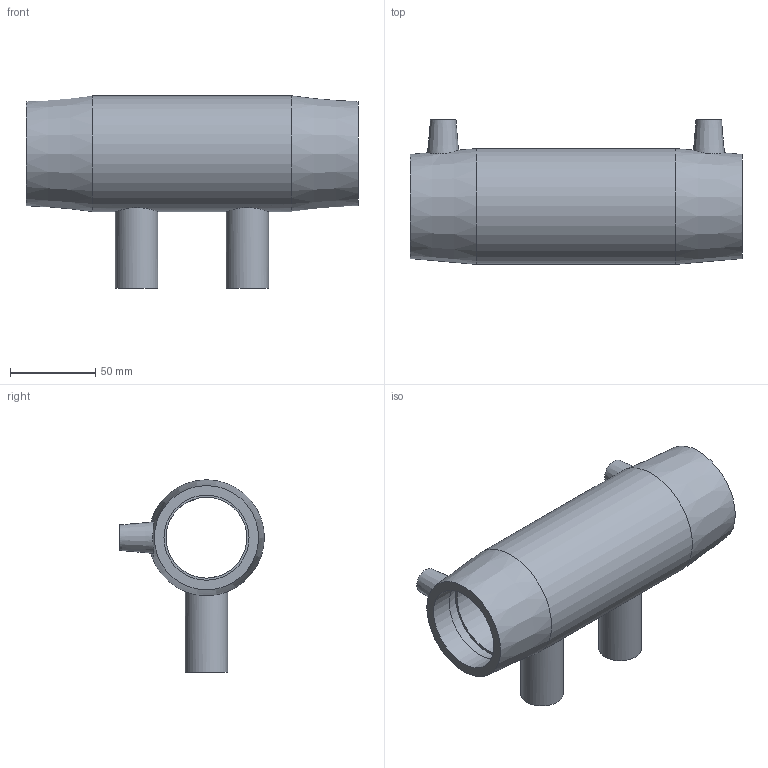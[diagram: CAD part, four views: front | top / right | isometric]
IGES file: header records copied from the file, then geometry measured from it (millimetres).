
Global section: file name: 492404050025.ipt; native system: Autodesk Inventor 2015; preprocessor: unknown; author: KIM; date: 20171106.093919; units: millimetre
Bounding box: 195 x 85 x 113 mm (x, y, z)
Volume: 331163.8 mm3; surface area: 89702.8 mm2
Topology: 1 solids, 1 shells, 34 faces, 80 edges, 58 vertices
Faces by surface type: plane 14, revolution 11, cylinder 5, cone 4
Full cylindrical faces by diameter (mm): 4 x2, 25 x2, 68 x1
